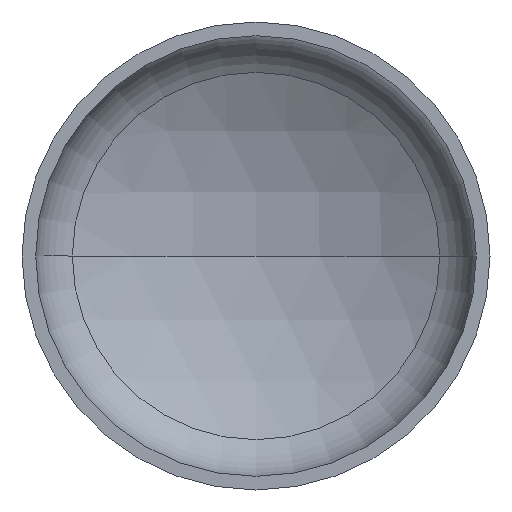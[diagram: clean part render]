
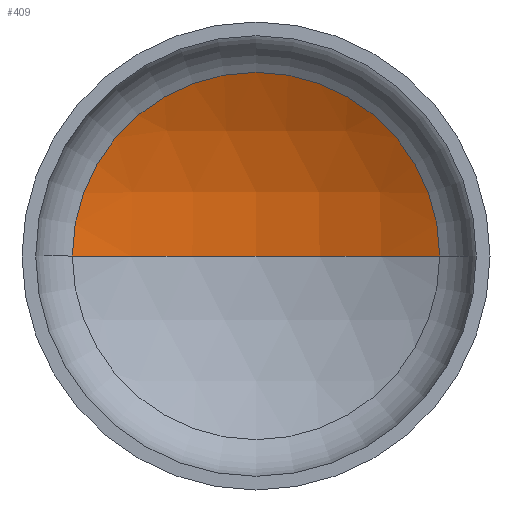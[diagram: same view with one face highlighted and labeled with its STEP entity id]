
A CAD part, front view. The second image highlights one B-rep face of the part: STEP entity #409.
In plain terms, the highlighted spherical face has radius 2080 mm.
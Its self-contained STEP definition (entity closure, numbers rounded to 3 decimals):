
#8 = VERTEX_POINT ( 'NONE', #147 ) ;
#12 = VERTEX_POINT ( 'NONE', #149 ) ;
#26 = AXIS2_PLACEMENT_3D ( 'NONE', #157, #321, #178 ) ;
#30 = AXIS2_PLACEMENT_3D ( 'NONE', #96, #223, #384 ) ;
#32 = AXIS2_PLACEMENT_3D ( 'NONE', #225, #385, #258 ) ;
#39 = EDGE_LOOP ( 'NONE', ( #52, #45, #303 ) ) ;
#45 = ORIENTED_EDGE ( 'NONE', *, *, #104, .T. ) ;
#52 = ORIENTED_EDGE ( 'NONE', *, *, #105, .F. ) ;
#66 = VERTEX_POINT ( 'NONE', #190 ) ;
#80 = DIRECTION ( 'NONE',  ( -1., 0., 0. ) ) ;
#96 = CARTESIAN_POINT ( 'NONE',  ( 0., -1344.044, 0. ) ) ;
#102 = EDGE_CURVE ( 'NONE', #8, #66, #282, .T. ) ;
#104 = EDGE_CURVE ( 'NONE', #12, #8, #214, .T. ) ;
#105 = EDGE_CURVE ( 'NONE', #12, #66, #336, .T. ) ;
#147 = CARTESIAN_POINT ( 'NONE',  ( 1020.19, 468.582, 0. ) ) ;
#149 = CARTESIAN_POINT ( 'NONE',  ( 0., 735.956, 0. ) ) ;
#157 = CARTESIAN_POINT ( 'NONE',  ( 0., -1344.044, 0. ) ) ;
#158 = FACE_OUTER_BOUND ( 'NONE', #39, .T. ) ;
#178 = DIRECTION ( 'NONE',  ( 1., 0., 0. ) ) ;
#190 = CARTESIAN_POINT ( 'NONE',  ( -1020.19, 468.582, 0. ) ) ;
#214 = CIRCLE ( 'NONE', #30, 2080. ) ;
#223 = DIRECTION ( 'NONE',  ( 0., 0., -1. ) ) ;
#225 = CARTESIAN_POINT ( 'NONE',  ( 0., 468.582, 0. ) ) ;
#257 = AXIS2_PLACEMENT_3D ( 'NONE', #323, #262, #80 ) ;
#258 = DIRECTION ( 'NONE',  ( 1., 0., 0. ) ) ;
#262 = DIRECTION ( 'NONE',  ( 0., 0., -1. ) ) ;
#282 = CIRCLE ( 'NONE', #32, 1020.19 ) ;
#303 = ORIENTED_EDGE ( 'NONE', *, *, #102, .T. ) ;
#321 = DIRECTION ( 'NONE',  ( 0., 0., 1. ) ) ;
#323 = CARTESIAN_POINT ( 'NONE',  ( 0., -1344.044, 0. ) ) ;
#332 = SPHERICAL_SURFACE ( 'NONE', #257, 2080. ) ;
#336 = CIRCLE ( 'NONE', #26, 2080. ) ;
#384 = DIRECTION ( 'NONE',  ( -1., 0., 0. ) ) ;
#385 = DIRECTION ( 'NONE',  ( 0., -1., 0. ) ) ;
#409 = ADVANCED_FACE ( 'NONE', ( #158 ), #332, .F. ) ;
